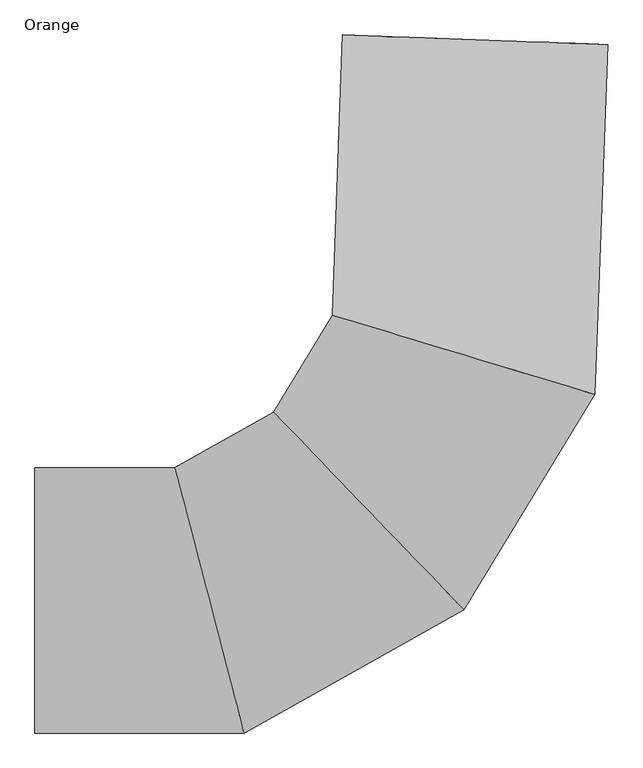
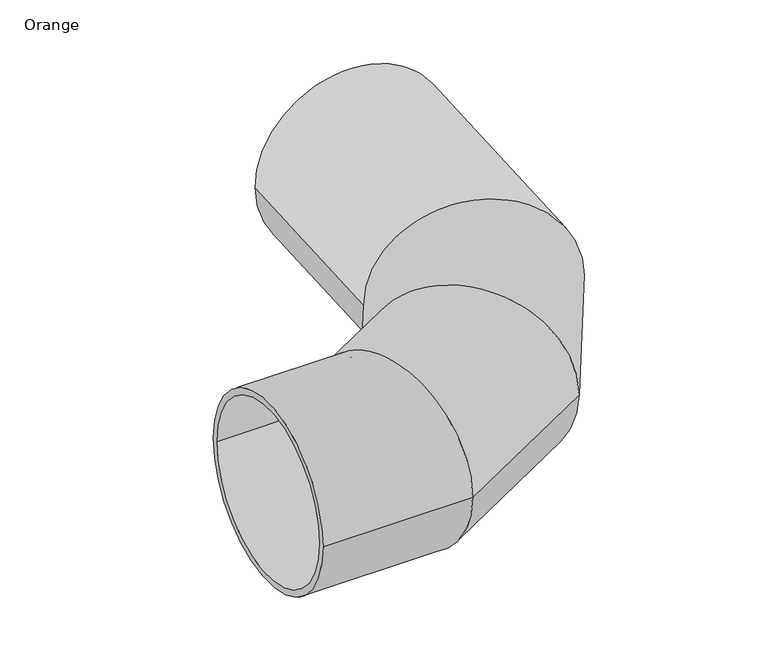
"""IFC4 building model written with IfcOpenShell, lengths in millimetres: pipe fitting geometry, AWADUKT PP SN10 SBend : Orange."""

from ifc_helpers import new_model, si_unit, frame, origin, place, context, project, spatial, polyline, circle_curve, ellipse_curve, source, transform, mapped, element, save
from ifc_brep_helpers import plane_surface, cylinder_surface, revolved_surface, advanced_brep


def orange_dd9ac047(model_context):
    return source(origin(), model_context, "Body", "AdvancedBrep", [
        advanced_brep(
        [(-791.0, -250.0, 0.0), (-791.0, 250.0, 0.0), (-791.0, -232.9, 0.0), (-791.0, 232.9, 0.0), (288.5278548, 1046.1298567, 0.0), (-211.1363421, 1064.451711, 0.0), (271.4393393, 1046.7564641, 0.0), (-194.0478265, 1063.8251036, 0.0), (-401.3965184, -232.9, 0.0), (-523.1624965, 232.9, 0.0), (-396.9263634, -250.0, 0.0), (-527.6326516, 250.0, 0.0), (4.7836792, -4.9623037, 0.0), (-329.3590347, 341.6574305, 0.0), (17.050404, -17.6870728, 0.0), (-341.6257595, 354.3821996, 0.0), (247.45224, 392.5926183, 0.0), (-213.5729688, 531.3454571, 0.0), (264.3769525, 387.498858, 0.0), (-230.4976813, 536.4392174, 0.0)],
        [
            (0, 1, circle_curve(frame((-791.0, 0.0, 0.0), z_axis=(-1.0, 0.0, 0.0), x_axis=(0.0, 1.0, 0.0)), 250.0)),
            (1, 0, circle_curve(frame((-791.0, 0.0, 0.0), z_axis=(-1.0, 0.0, 0.0), x_axis=(0.0, 1.0, 0.0)), 250.0)),
            (2, 3, circle_curve(frame((-791.0, 0.0, 0.0), z_axis=(1.0, 0.0, 0.0), x_axis=(0.0, 1.0, 0.0)), 232.9)),
            (3, 2, circle_curve(frame((-791.0, 0.0, 0.0), z_axis=(1.0, 0.0, 0.0), x_axis=(0.0, 1.0, 0.0)), 232.9)),
            (4, 5, circle_curve(frame((38.6957564, 1055.2907838, 0.0), z_axis=(0.036643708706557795, 0.9993283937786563, 0.0), x_axis=(-0.9993283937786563, 0.036643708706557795, 0.0)), 250.0)),
            (5, 4, circle_curve(frame((38.6957564, 1055.2907838, 0.0), z_axis=(0.036643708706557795, 0.9993283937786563, 0.0), x_axis=(-0.9993283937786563, 0.036643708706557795, 0.0)), 250.0)),
            (6, 7, circle_curve(frame((38.6957564, 1055.2907838, 0.0), z_axis=(-0.036643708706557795, -0.9993283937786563, 0.0), x_axis=(-0.9993283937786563, 0.036643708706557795, 0.0)), 232.9)),
            (7, 6, circle_curve(frame((38.6957564, 1055.2907838, 0.0), z_axis=(-0.036643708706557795, -0.9993283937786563, 0.0), x_axis=(-0.9993283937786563, 0.036643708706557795, 0.0)), 232.9)),
            (2, 8),
            (8, 9, ellipse_curve(frame((-462.2795075, 0.0, 0.0), z_axis=(0.9674888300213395, 0.2529137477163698, 0.0), x_axis=(0.2529137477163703, -0.9674888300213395, 0.0)), 240.7262934, 232.9)),
            (9, 3),
            (9, 8, ellipse_curve(frame((-462.2795075, 0.0, 0.0), z_axis=(0.9674888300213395, 0.2529137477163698, 0.0), x_axis=(0.2529137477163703, -0.9674888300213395, 0.0)), 240.7262934, 232.9)),
            (0, 10),
            (10, 11, ellipse_curve(frame((-462.2795075, 0.0, 0.0), z_axis=(-0.9674888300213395, -0.2529137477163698, 0.0), x_axis=(-0.2529137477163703, 0.9674888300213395, 0.0)), 258.4009161, 250.0)),
            (11, 1),
            (11, 10, ellipse_curve(frame((-462.2795075, 0.0, 0.0), z_axis=(-0.9674888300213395, -0.2529137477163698, 0.0), x_axis=(-0.2529137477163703, 0.9674888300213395, 0.0)), 258.4009161, 250.0)),
            (8, 12),
            (12, 13, ellipse_curve(frame((-162.2876777, 168.3475634, 0.0), z_axis=(0.7199457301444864, 0.694030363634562, 0.0), x_axis=(0.6940303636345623, -0.719945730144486, 0.0)), 240.7262934, 232.9)),
            (13, 9),
            (13, 12, ellipse_curve(frame((-162.2876777, 168.3475634, 0.0), z_axis=(0.7199457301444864, 0.694030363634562, 0.0), x_axis=(0.6940303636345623, -0.719945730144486, 0.0)), 240.7262934, 232.9)),
            (10, 14),
            (14, 15, ellipse_curve(frame((-162.2876777, 168.3475634, 0.0), z_axis=(-0.7199457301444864, -0.694030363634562, 0.0), x_axis=(-0.6940303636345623, 0.719945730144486, 0.0)), 258.4009161, 250.0)),
            (15, 11),
            (15, 14, ellipse_curve(frame((-162.2876777, 168.3475634, 0.0), z_axis=(-0.7199457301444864, -0.694030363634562, 0.0), x_axis=(-0.6940303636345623, 0.719945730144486, 0.0)), 258.4009161, 250.0)),
            (12, 16),
            (16, 17, ellipse_curve(frame((16.9396356, 461.9690377, 0.0), z_axis=(0.2881962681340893, 0.9575713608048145, 0.0), x_axis=(0.9575713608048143, -0.28819626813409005, 0.0)), 240.7262934, 232.9)),
            (17, 13),
            (17, 16, ellipse_curve(frame((16.9396356, 461.9690377, 0.0), z_axis=(0.2881962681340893, 0.9575713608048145, 0.0), x_axis=(0.9575713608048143, -0.28819626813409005, 0.0)), 240.7262934, 232.9)),
            (14, 18),
            (18, 19, ellipse_curve(frame((16.9396356, 461.9690377, 0.0), z_axis=(-0.2881962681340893, -0.9575713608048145, 0.0), x_axis=(-0.9575713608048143, 0.28819626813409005, 0.0)), 258.4009161, 250.0)),
            (19, 15),
            (19, 18, ellipse_curve(frame((16.9396356, 461.9690377, 0.0), z_axis=(-0.2881962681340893, -0.9575713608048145, 0.0), x_axis=(-0.9575713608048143, 0.28819626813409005, 0.0)), 258.4009161, 250.0)),
            (16, 6),
            (7, 17),
            (18, 4),
            (5, 19),
        ],
        [
            plane_surface(frame((-791.0, 0.0, 0.0), z_axis=(-1.0, 0.0, 0.0), x_axis=(0.0, 0.0, 1.0))),
            plane_surface(frame((38.6957564, 1055.2907838, 0.0), z_axis=(0.036643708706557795, 0.9993283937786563, 0.0), x_axis=(0.0, 0.0, 1.0))),
            revolved_surface(polyline([(-401.3965184, 232.9, 0.0), (-791.0, 232.9, 0.0)]), (-791.0, 0.0, 0.0), (1.0, 0.0, 0.0)),
            cylinder_surface(frame((-791.0, 0.0, 0.0), z_axis=(-1.0, 0.0, 0.0), x_axis=(0.0, 1.0, 0.0)), 250.0),
            revolved_surface(polyline([(-223.1706667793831, 401.2475634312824, 0.0), (-629.3508644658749, 173.3098671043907, 0.0)]), (-462.2795075, 0.0, 0.0), (0.8720692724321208, 0.48938245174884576, 0.0)),
            cylinder_surface(frame((-462.2795075, 0.0, 0.0), z_axis=(-0.8720692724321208, -0.48938245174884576, 0.0), x_axis=(-0.48938245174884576, 0.8720692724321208, 0.0)), 250.0),
            revolved_surface(polyline([(-150.13172131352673, 635.2789047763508, 0.0), (-392.8002821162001, 237.72398277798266, 0.0)]), (-162.2876777, 168.3475634, 0.0), (0.521009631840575, 0.8535507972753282, 0.0)),
            cylinder_surface(frame((-162.2876777, 168.3475634, 0.0), z_axis=(-0.521009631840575, -0.8535507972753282, 0.0), x_axis=(-0.8535507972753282, 0.521009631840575, 0.0)), 250.0),
            revolved_surface(polyline([(-194.04782652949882, 1063.825103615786, 0.0), (-218.0349258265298, 409.6612578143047, 0.0)]), (16.9396356, 461.9690377, 0.0), (0.036643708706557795, 0.9993283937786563, 0.0)),
            cylinder_surface(frame((16.9396356, 461.9690377, 0.0), z_axis=(-0.036643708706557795, -0.9993283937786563, 0.0), x_axis=(-0.9993283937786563, 0.036643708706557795, 0.0)), 250.0),
        ],
        [
            (0, [[1, 2], [3, 4]]),
            (1, [[5, 6], [7, 8]]),
            (2, [[-3, 9, 10, 11]]),
            (2, [[-4, -11, 12, -9]]),
            (3, [[-1, 13, 14, 15]]),
            (3, [[-2, -15, 16, -13]]),
            (4, [[-10, 17, 18, 19]]),
            (4, [[-12, -19, 20, -17]]),
            (5, [[-14, 21, 22, 23]]),
            (5, [[-16, -23, 24, -21]]),
            (6, [[-18, 25, 26, 27]]),
            (6, [[-20, -27, 28, -25]]),
            (7, [[-22, 29, 30, 31]]),
            (7, [[-24, -31, 32, -29]]),
            (8, [[-26, 33, -8, 34]]),
            (8, [[-28, -34, -7, -33]]),
            (9, [[-30, 35, -6, 36]]),
            (9, [[-32, -36, -5, -35]]),
        ],
    ),
    ])


if __name__ == "__main__":
    model = new_model("IFC4")
    model_context = context("Model", 3, world=origin())
    ifc_project = project(units=[si_unit("LENGTHUNIT", "METRE", prefix="MILLI")], contexts=[model_context])
    site = spatial("IfcSite", under=ifc_project)
    building = spatial("IfcBuilding", under=site)
    placement = place(None, origin())
    orange_shape = orange_dd9ac047(model_context)
    element("IfcPipeFitting", 1, ObjectType="AWADUKT PP SN10 SBend : Orange", at=placement, inside=building, context=model_context, shape_type="MappedRepresentation", body=[
        mapped(orange_shape, transform((0.0, 0.0, 0.0), x_axis=(1.0, 0.0, 0.0), y_axis=(0.0, 1.0, 0.0), z_axis=(0.0, 0.0, 1.0))),
    ])
    save(model, "model.ifc")
